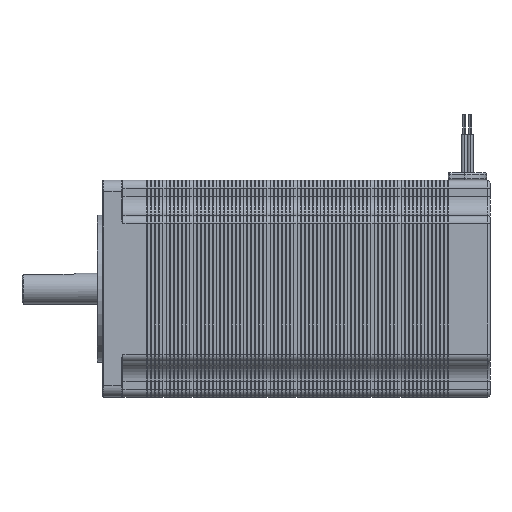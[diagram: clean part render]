
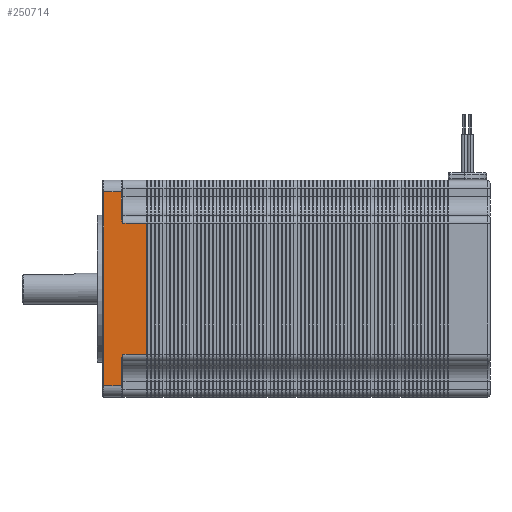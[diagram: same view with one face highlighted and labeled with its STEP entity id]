
A CAD part, left-side view. The second image highlights one B-rep face of the part: STEP entity #250714.
In plain terms, the highlighted planar face has unit normal (-1, 0, 0).
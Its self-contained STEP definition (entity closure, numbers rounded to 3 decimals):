
#581 = VECTOR ( 'NONE', #29344, 1000. ) ;
#2749 = ORIENTED_EDGE ( 'NONE', *, *, #125589, .F. ) ;
#9325 = CARTESIAN_POINT ( 'NONE',  ( -28.15, 95.5, 25.15 ) ) ;
#10584 = DIRECTION ( 'NONE',  ( 0., 1., 0. ) ) ;
#11227 = VERTEX_POINT ( 'NONE', #131883 ) ;
#19785 = ORIENTED_EDGE ( 'NONE', *, *, #40035, .F. ) ;
#22057 = CARTESIAN_POINT ( 'NONE',  ( -28.15, 100.5, 17. ) ) ;
#28328 = B_SPLINE_CURVE_WITH_KNOTS ( 'NONE', 3,
 ( #156086, #54712, #35036, #136219, #115188, #157338 ),
 .UNSPECIFIED., .F., .F.,
 ( 4, 2, 4 ),
 ( 0., 0.001, 0.001 ),
 .UNSPECIFIED. ) ;
#29344 = DIRECTION ( 'NONE',  ( 0., 0., 1. ) ) ;
#32527 = VERTEX_POINT ( 'NONE', #40248 ) ;
#35036 = CARTESIAN_POINT ( 'NONE',  ( -28.15, 95.642, -17.823 ) ) ;
#37651 = CARTESIAN_POINT ( 'NONE',  ( -28.15, 100.3, 25.15 ) ) ;
#39435 = CARTESIAN_POINT ( 'NONE',  ( -28.15, 100.5, -17. ) ) ;
#40035 = EDGE_CURVE ( 'NONE', #183798, #11227, #184730, .T. ) ;
#40248 = CARTESIAN_POINT ( 'NONE',  ( -28.15, 89.1, -17. ) ) ;
#40394 = DIRECTION ( 'NONE',  ( 0., -1., 0. ) ) ;
#41311 = VERTEX_POINT ( 'NONE', #254912 ) ;
#41998 = LINE ( 'NONE', #39435, #113957 ) ;
#50265 = CARTESIAN_POINT ( 'NONE',  ( -28.15, 95.7, -17. ) ) ;
#54178 = VECTOR ( 'NONE', #205766, 1000. ) ;
#54712 = CARTESIAN_POINT ( 'NONE',  ( -28.15, 95.7, -18.04 ) ) ;
#55503 = EDGE_CURVE ( 'NONE', #32527, #41311, #118893, .T. ) ;
#56236 = CARTESIAN_POINT ( 'NONE',  ( -28.15, 100.5, -17. ) ) ;
#63494 = VERTEX_POINT ( 'NONE', #241031 ) ;
#65483 = VERTEX_POINT ( 'NONE', #37651 ) ;
#70886 = VECTOR ( 'NONE', #237580, 1000. ) ;
#75616 = CARTESIAN_POINT ( 'NONE',  ( -28.15, 95.7, 25.15 ) ) ;
#75892 = EDGE_CURVE ( 'NONE', #211340, #102350, #208541, .T. ) ;
#76710 = CARTESIAN_POINT ( 'NONE',  ( -28.15, 95.7, -25.15 ) ) ;
#79464 = DIRECTION ( 'NONE',  ( 0., 0., 1. ) ) ;
#82712 = CARTESIAN_POINT ( 'NONE',  ( -28.15, 95.642, 17.823 ) ) ;
#85330 = CARTESIAN_POINT ( 'NONE',  ( -28.15, 95.491, 17.403 ) ) ;
#97987 = CARTESIAN_POINT ( 'NONE',  ( -28.15, 95.7, -17. ) ) ;
#100768 = VECTOR ( 'NONE', #40394, 1000. ) ;
#102350 = VERTEX_POINT ( 'NONE', #229810 ) ;
#103213 = VERTEX_POINT ( 'NONE', #75616 ) ;
#105605 = CARTESIAN_POINT ( 'NONE',  ( -28.15, 95.5, -25.15 ) ) ;
#110443 = LINE ( 'NONE', #9325, #119697 ) ;
#113635 = ORIENTED_EDGE ( 'NONE', *, *, #151922, .T. ) ;
#113715 = CARTESIAN_POINT ( 'NONE',  ( -28.15, 89.1, -17. ) ) ;
#113957 = VECTOR ( 'NONE', #221196, 1000. ) ;
#115188 = CARTESIAN_POINT ( 'NONE',  ( -28.15, 95.395, -17.201 ) ) ;
#118518 = VECTOR ( 'NONE', #190430, 1000. ) ;
#118893 = LINE ( 'NONE', #113715, #70886 ) ;
#119697 = VECTOR ( 'NONE', #10584, 1000. ) ;
#122174 = EDGE_CURVE ( 'NONE', #63494, #222286, #28328, .T. ) ;
#125589 = EDGE_CURVE ( 'NONE', #211340, #41311, #145595, .T. ) ;
#127540 = EDGE_CURVE ( 'NONE', #65483, #11227, #243304, .T. ) ;
#131883 = CARTESIAN_POINT ( 'NONE',  ( -28.15, 100.3, -25.15 ) ) ;
#133088 = LINE ( 'NONE', #50265, #581 ) ;
#136021 = CARTESIAN_POINT ( 'NONE',  ( -28.15, 95.3, 17. ) ) ;
#136219 = CARTESIAN_POINT ( 'NONE',  ( -28.15, 95.491, -17.403 ) ) ;
#139912 = ORIENTED_EDGE ( 'NONE', *, *, #75892, .T. ) ;
#143253 = CARTESIAN_POINT ( 'NONE',  ( -28.15, 95.395, 17.202 ) ) ;
#145595 = LINE ( 'NONE', #22057, #100768 ) ;
#147543 = ORIENTED_EDGE ( 'NONE', *, *, #223160, .T. ) ;
#151891 = ORIENTED_EDGE ( 'NONE', *, *, #127540, .T. ) ;
#151922 = EDGE_CURVE ( 'NONE', #222286, #32527, #41998, .T. ) ;
#152460 = DIRECTION ( 'NONE',  ( 1., 0., 0. ) ) ;
#156086 = CARTESIAN_POINT ( 'NONE',  ( -28.15, 95.7, -18.265 ) ) ;
#157338 = CARTESIAN_POINT ( 'NONE',  ( -28.15, 95.3, -17. ) ) ;
#164239 = ORIENTED_EDGE ( 'NONE', *, *, #55503, .T. ) ;
#165577 = CARTESIAN_POINT ( 'NONE',  ( -28.15, 95.7, 18.04 ) ) ;
#166819 = EDGE_LOOP ( 'NONE', ( #199063, #151891, #19785, #147543, #189205, #113635, #164239, #2749, #139912, #206579 ) ) ;
#166848 = CARTESIAN_POINT ( 'NONE',  ( -28.15, 95.7, 18.265 ) ) ;
#168249 = PLANE ( 'NONE',  #236520 ) ;
#168618 = EDGE_CURVE ( 'NONE', #102350, #103213, #257311, .T. ) ;
#181480 = VECTOR ( 'NONE', #79464, 1000. ) ;
#183798 = VERTEX_POINT ( 'NONE', #76710 ) ;
#184730 = LINE ( 'NONE', #105605, #54178 ) ;
#186543 = CARTESIAN_POINT ( 'NONE',  ( -28.15, 100.3, -25.15 ) ) ;
#189205 = ORIENTED_EDGE ( 'NONE', *, *, #122174, .T. ) ;
#189595 = EDGE_CURVE ( 'NONE', #103213, #65483, #110443, .T. ) ;
#190430 = DIRECTION ( 'NONE',  ( 0., 0., -1. ) ) ;
#195921 = DIRECTION ( 'NONE',  ( 0., 0., -1. ) ) ;
#199063 = ORIENTED_EDGE ( 'NONE', *, *, #189595, .T. ) ;
#201302 = CARTESIAN_POINT ( 'NONE',  ( -28.15, 95.3, 17. ) ) ;
#204692 = CARTESIAN_POINT ( 'NONE',  ( -28.15, 95.3, -17. ) ) ;
#205766 = DIRECTION ( 'NONE',  ( 0., 1., 0. ) ) ;
#206579 = ORIENTED_EDGE ( 'NONE', *, *, #168618, .T. ) ;
#208541 = B_SPLINE_CURVE_WITH_KNOTS ( 'NONE', 3,
 ( #201302, #143253, #85330, #82712, #165577, #166848 ),
 .UNSPECIFIED., .F., .F.,
 ( 4, 2, 4 ),
 ( 0., 0.001, 0.001 ),
 .UNSPECIFIED. ) ;
#211340 = VERTEX_POINT ( 'NONE', #136021 ) ;
#221196 = DIRECTION ( 'NONE',  ( 0., -1., 0. ) ) ;
#222286 = VERTEX_POINT ( 'NONE', #204692 ) ;
#223160 = EDGE_CURVE ( 'NONE', #183798, #63494, #133088, .T. ) ;
#227667 = FACE_OUTER_BOUND ( 'NONE', #166819, .T. ) ;
#229810 = CARTESIAN_POINT ( 'NONE',  ( -28.15, 95.7, 18.265 ) ) ;
#236520 = AXIS2_PLACEMENT_3D ( 'NONE', #56236, #152460, #195921 ) ;
#237580 = DIRECTION ( 'NONE',  ( 0., 0., 1. ) ) ;
#241031 = CARTESIAN_POINT ( 'NONE',  ( -28.15, 95.7, -18.265 ) ) ;
#243304 = LINE ( 'NONE', #186543, #118518 ) ;
#250714 = ADVANCED_FACE ( 'NONE', ( #227667 ), #168249, .F. ) ;
#254912 = CARTESIAN_POINT ( 'NONE',  ( -28.15, 89.1, 17. ) ) ;
#257311 = LINE ( 'NONE', #97987, #181480 ) ;
